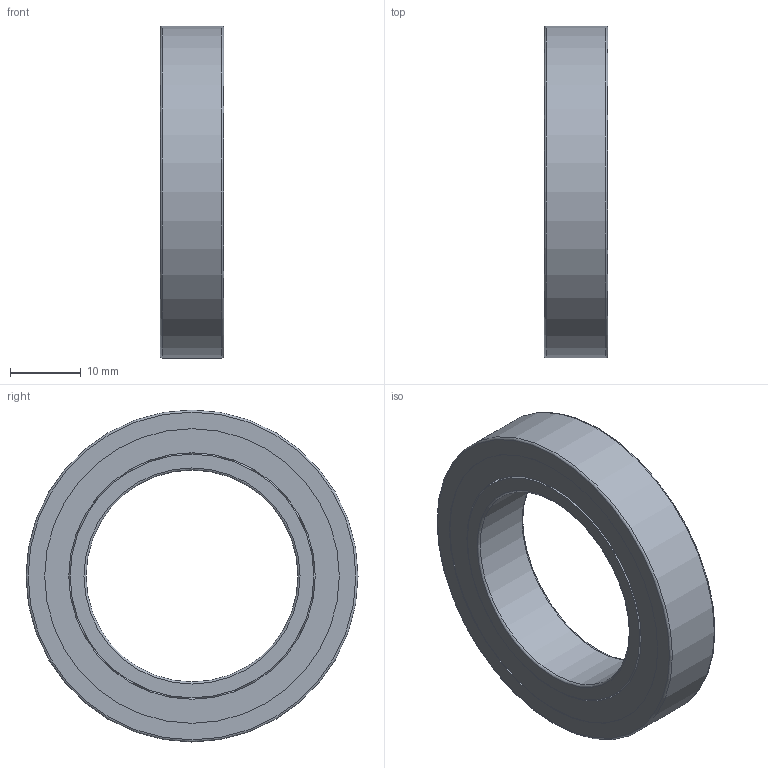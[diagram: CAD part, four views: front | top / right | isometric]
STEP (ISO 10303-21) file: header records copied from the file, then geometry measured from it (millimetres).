
FILE_DESCRIPTION(/* description */ (''),/* implementation_level */ '2;1');
FILE_NAME(/* name */ 'KH_61906_TA.step',/* time_stamp */ '2013-03-07T07:04:39+01:00',/* author */ ('Marian'),/* organization */ ('GMN'),/* preprocessor_version */ 'ST-DEVELOPER v11',/* originating_system */ 'SIEMENS UGS NX 6.0',/* authorisation */ '');
FILE_SCHEMA (('CONFIG_CONTROL_DESIGN'));
Length unit declared in the file: millimetre
Products named in the file (1): KH_61906_TA
Bounding box: 9 x 47 x 47 mm (x, y, z)
Volume: 7375.6 mm3; surface area: 10247.7 mm2
Topology: 27 solids, 27 shells, 76 faces, 188 edges, 122 vertices
Faces by surface type: cylinder 35, sphere 22, plane 12, torus 6, cone 1
Full cylindrical faces by diameter (mm): 4.169 x22, 30 x1, 34.5 x1, 34.9 x1, 35.1 x1, 35.5 x1, 37.449 x1, 39.798 x1, 40.198 x1, 41.7 x2, 43 x2, 47 x1
Entity records: 4130 total; most frequent: CARTESIAN_POINT 2759, DIRECTION 218, FACE_BOUND 174, EDGE_LOOP 152, ORIENTED_EDGE 152, AXIS2_PLACEMENT_3D 109, VERTEX_POINT 98, ADVANCED_FACE 76
